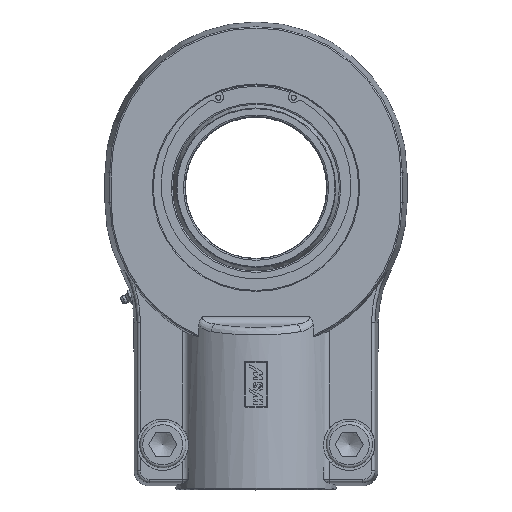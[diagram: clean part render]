
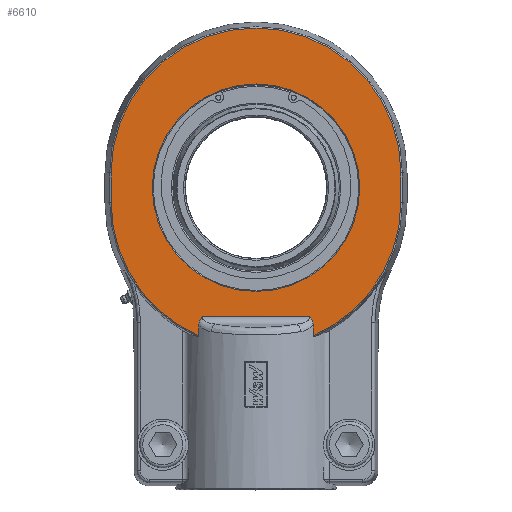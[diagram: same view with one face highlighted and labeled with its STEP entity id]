
A CAD part, top view. The second image highlights one B-rep face of the part: STEP entity #6610.
In plain terms, the highlighted planar face has unit normal (0, 0, 1).
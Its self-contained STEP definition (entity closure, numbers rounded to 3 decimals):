
#2567=CARTESIAN_POINT('',(44.387,-115.128,44.0));
#2568=VERTEX_POINT('',#2567);
#2584=CARTESIAN_POINT('',(44.387,-106.679,44.));
#2585=VERTEX_POINT('',#2584);
#2586=CARTESIAN_POINT('',(44.387,-106.679,44.));
#2587=DIRECTION('',(0.,-1.0,0.));
#2588=VECTOR('',#2587,8.449);
#2589=LINE('',#2586,#2588);
#2590=EDGE_CURVE('',#2585,#2568,#2589,.T.);
#2617=CARTESIAN_POINT('',(-44.387,-106.679,44.));
#2618=VERTEX_POINT('',#2617);
#2634=CARTESIAN_POINT('',(-44.387,-115.128,44.0));
#2635=VERTEX_POINT('',#2634);
#2636=CARTESIAN_POINT('',(-44.387,-115.128,44.0));
#2637=DIRECTION('',(0.,1.0,0.));
#2638=VECTOR('',#2637,8.449);
#2639=LINE('',#2636,#2638);
#2640=EDGE_CURVE('',#2635,#2618,#2639,.T.);
#2999=CARTESIAN_POINT('',(0.0,80.7,44.0));
#3000=VERTEX_POINT('',#2999);
#3001=CARTESIAN_POINT('',(0.0,0.0,44.0));
#3002=DIRECTION('',(0.0,0.0,-1.0));
#3003=DIRECTION('',(0.0,1.0,0.0));
#3004=AXIS2_PLACEMENT_3D('',#3001,#3002,#3003);
#3005=CIRCLE('',#3004,80.7);
#3006=EDGE_CURVE('',#3000,#3000,#3005,.T.);
#3116=CARTESIAN_POINT('',(-112.734,11.5,44.0));
#3117=VERTEX_POINT('',#3116);
#3125=CARTESIAN_POINT('',(112.734,11.5,44.0));
#3126=VERTEX_POINT('',#3125);
#3127=CARTESIAN_POINT('',(0.,11.5,44.0));
#3128=DIRECTION('',(0.0,0.0,-1.0));
#3129=DIRECTION('',(0.0,1.0,0.0));
#3130=AXIS2_PLACEMENT_3D('',#3127,#3128,#3129);
#3131=CIRCLE('',#3130,112.734);
#3132=EDGE_CURVE('',#3117,#3126,#3131,.T.);
#6457=CARTESIAN_POINT('',(-112.734,-11.5,44.0));
#6458=VERTEX_POINT('',#6457);
#6476=CARTESIAN_POINT('',(0.0,-11.5,44.0));
#6477=DIRECTION('',(0.0,0.0,-1.0));
#6478=DIRECTION('',(-0.834,-0.552,0.0));
#6479=AXIS2_PLACEMENT_3D('',#6476,#6477,#6478);
#6480=CIRCLE('',#6479,112.734);
#6481=EDGE_CURVE('',#2635,#6458,#6480,.T.);
#6499=CARTESIAN_POINT('',(-112.734,-11.5,44.0));
#6500=DIRECTION('',(0.0,1.0,0.0));
#6501=VECTOR('',#6500,23.0);
#6502=LINE('',#6499,#6501);
#6503=EDGE_CURVE('',#6458,#3117,#6502,.T.);
#6513=CARTESIAN_POINT('',(112.734,-11.5,44.0));
#6514=VERTEX_POINT('',#6513);
#6524=CARTESIAN_POINT('',(112.734,11.5,44.0));
#6525=DIRECTION('',(0.0,-1.0,0.0));
#6526=VECTOR('',#6525,23.);
#6527=LINE('',#6524,#6526);
#6528=EDGE_CURVE('',#3126,#6514,#6527,.T.);
#6547=CARTESIAN_POINT('',(0.0,-11.5,44.0));
#6548=DIRECTION('',(0.0,0.0,-1.0));
#6549=DIRECTION('',(0.834,-0.552,0.0));
#6550=AXIS2_PLACEMENT_3D('',#6547,#6548,#6549);
#6551=CIRCLE('',#6550,112.734);
#6552=EDGE_CURVE('',#6514,#2568,#6551,.T.);
#6557=CARTESIAN_POINT('',(0.,0.0,44.0));
#6558=DIRECTION('',(0.0,0.0,1.0));
#6559=DIRECTION('',(1.0,0.0,0.0));
#6560=AXIS2_PLACEMENT_3D('',#6557,#6558,#6559);
#6561=PLANE('',#6560);
#6562=ORIENTED_EDGE('',*,*,#6552,.F.);
#6563=ORIENTED_EDGE('',*,*,#6528,.F.);
#6564=ORIENTED_EDGE('',*,*,#3132,.F.);
#6565=ORIENTED_EDGE('',*,*,#6503,.F.);
#6566=ORIENTED_EDGE('',*,*,#6481,.F.);
#6567=ORIENTED_EDGE('',*,*,#2640,.T.);
#6568=CARTESIAN_POINT('',(-41.812,-100.396,44.0));
#6569=VERTEX_POINT('',#6568);
#6570=CARTESIAN_POINT('',(-44.387,-106.679,44.0));
#6571=CARTESIAN_POINT('',(-44.387,-106.356,44.0));
#6572=CARTESIAN_POINT('',(-44.371,-106.034,44.));
#6573=CARTESIAN_POINT('',(-44.23,-104.685,44.));
#6574=CARTESIAN_POINT('',(-43.95,-103.683,44.));
#6575=CARTESIAN_POINT('',(-43.157,-102.052,44.));
#6576=CARTESIAN_POINT('',(-42.647,-101.234,44.));
#6577=CARTESIAN_POINT('',(-41.819,-100.403,44.));
#6578=CARTESIAN_POINT('',(-41.816,-100.4,44.0));
#6579=CARTESIAN_POINT('',(-41.812,-100.396,44.0));
#6580=B_SPLINE_CURVE_WITH_KNOTS('',3,(#6570,#6571,#6572,#6573,#6574,#6575,#6576,#6577,#6578,#6579),.UNSPECIFIED.,.F.,.U.,(4,2,2,2,4),(0.0,0.097,0.407,0.641,0.642),.UNSPECIFIED.);
#6581=EDGE_CURVE('',#6569,#2618,#6580,.F.);
#6582=ORIENTED_EDGE('',*,*,#6581,.F.);
#6583=CARTESIAN_POINT('',(41.812,-100.396,44.0));
#6584=VERTEX_POINT('',#6583);
#6585=CARTESIAN_POINT('',(41.812,-100.396,44.0));
#6586=DIRECTION('',(-1.0,0.0,0.0));
#6587=VECTOR('',#6586,83.624);
#6588=LINE('',#6585,#6587);
#6589=EDGE_CURVE('',#6584,#6569,#6588,.T.);
#6590=ORIENTED_EDGE('',*,*,#6589,.F.);
#6591=CARTESIAN_POINT('',(41.812,-100.396,44.));
#6592=CARTESIAN_POINT('',(41.816,-100.4,44.));
#6593=CARTESIAN_POINT('',(41.819,-100.403,44.));
#6594=CARTESIAN_POINT('',(42.251,-100.836,44.));
#6595=CARTESIAN_POINT('',(42.63,-101.301,44.));
#6596=CARTESIAN_POINT('',(43.289,-102.308,44.));
#6597=CARTESIAN_POINT('',(43.563,-102.841,44.));
#6598=CARTESIAN_POINT('',(44.187,-104.445,44.));
#6599=CARTESIAN_POINT('',(44.387,-105.557,44.0));
#6600=CARTESIAN_POINT('',(44.387,-106.679,44.0));
#6601=B_SPLINE_CURVE_WITH_KNOTS('',3,(#6591,#6592,#6593,#6594,#6595,#6596,#6597,#6598,#6599,#6600),.UNSPECIFIED.,.F.,.U.,(4,2,2,2,4),(-0.002,0.0,0.182,0.362,0.699),.UNSPECIFIED.);
#6602=EDGE_CURVE('',#2585,#6584,#6601,.F.);
#6603=ORIENTED_EDGE('',*,*,#6602,.F.);
#6604=ORIENTED_EDGE('',*,*,#2590,.T.);
#6605=EDGE_LOOP('',(#6562,#6563,#6564,#6565,#6566,#6567,#6582,#6590,#6603,#6604));
#6606=FACE_OUTER_BOUND('',#6605,.T.);
#6607=ORIENTED_EDGE('',*,*,#3006,.T.);
#6608=EDGE_LOOP('',(#6607));
#6609=FACE_BOUND('',#6608,.T.);
#6610=ADVANCED_FACE('',(#6606,#6609),#6561,.T.);
